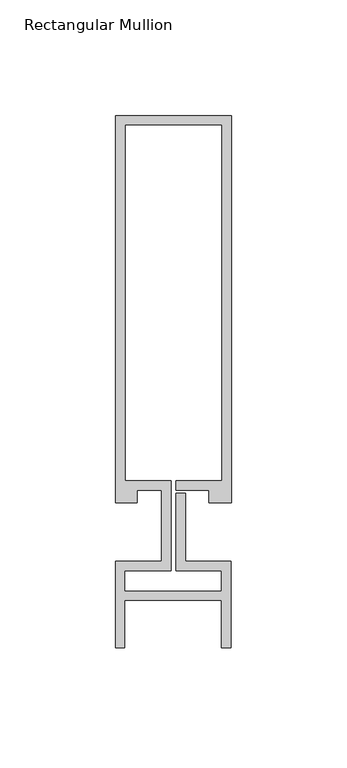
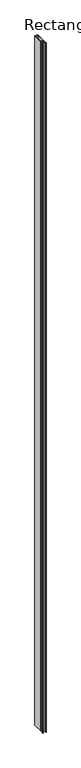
"""IFC4 building model written with IfcOpenShell, lengths in millimetres: member geometry, Rectangular Mullion : Reynaers_CW-50_Transom-Transom_167.5mm_Facecap-03."""

from ifc_helpers import new_model, si_unit, frame, origin, place, context, project, spatial, polyline, outline, extrude, source, transform, mapped, element, save


def rectangular_mullion_525918dc(model_context):
    return source(origin(), model_context, "Body", "SweptSolid", [
        extrude(outline(polyline([(25.1995941, 12.7331291), (15.499, 12.7331291), (15.499, 18.1331291), (1.2995941, 18.1331291), (1.2995941, 22.1331291), (21.1995941, 22.1331291), (21.1995941, 176.2331291), (-20.8004059, 176.2331291), (-20.8004059, 22.1331291), (-0.9004059, 22.1331291), (-0.9004059, -16.7331291), (-20.994845, -16.7331291), (-20.994845, -25.5600018), (20.994845, -25.5600018), (20.994845, -16.7331291), (1.2995941, -16.7331291), (1.2995941, 16.7615089), (5.2995941, 16.7615089), (5.2995941, -12.7331291), (24.994845, -12.7331291), (24.994845, -50.0331291), (20.994845, -50.0331291), (20.994845, -29.5600018), (-20.994845, -29.5600018), (-20.994845, -50.0331291), (-24.994845, -50.0331291), (-24.994845, -12.7331291), (-4.9004059, -12.7331291), (-4.9004059, 18.1331291), (-15.499, 18.1331291), (-15.499, 12.7331291), (-24.8004059, 12.7331291), (-24.8004059, 180.2331291), (25.1995941, 180.2331291), (25.1995941, 12.7331291)])), frame((0.0, 0.0, -12000.0), z_axis=(0.0, 0.0, 1.0), x_axis=(1.0, 0.0, 0.0)), (0.0, 0.0, 1.0), 12000.0),
    ])


if __name__ == "__main__":
    model = new_model("IFC4")
    model_context = context("Model", 3, world=origin())
    ifc_project = project(units=[si_unit("LENGTHUNIT", "METRE", prefix="MILLI")], contexts=[model_context])
    site = spatial("IfcSite", under=ifc_project)
    building = spatial("IfcBuilding", under=site)
    placement = place(None, origin())
    rectangular_mullion_shape = rectangular_mullion_525918dc(model_context)
    element("IfcMember", 1, ObjectType="Rectangular Mullion : Reynaers_CW-50_Transom-Transom_167.5mm_Facecap-03", at=placement, inside=building, context=model_context, shape_type="MappedRepresentation", body=[
        mapped(rectangular_mullion_shape, transform((0.0, 0.0, 0.0), x_axis=(1.0, 0.0, 0.0), y_axis=(0.0, 1.0, 0.0), z_axis=(0.0, 0.0, 1.0))),
    ])
    save(model, "model.ifc")
